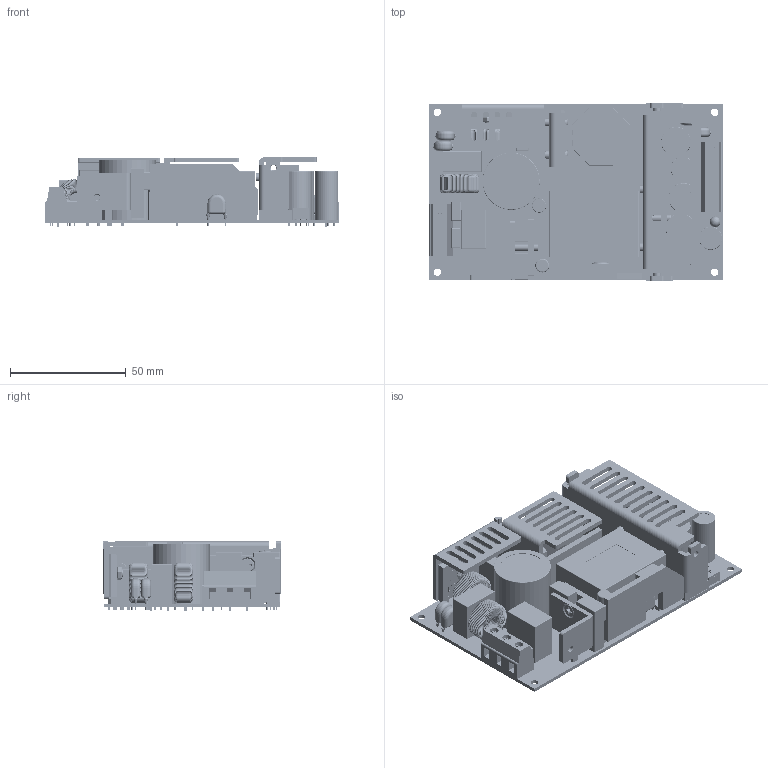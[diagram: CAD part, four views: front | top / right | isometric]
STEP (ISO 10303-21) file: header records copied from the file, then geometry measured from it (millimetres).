
FILE_DESCRIPTION(/* description */ (''),/* implementation_level */ '2;1');
FILE_NAME(/* name */ 'D:\Inventor\3D Files\200508\AQF120O B TYPE.stp',/* time_stamp */ '2020-04-23T16:15:37+08:00',/* author */ ('peter'),/* organization */ (''),/* preprocessor_version */ 'ST-DEVELOPER v15.2',/* originating_system */ 'Autodesk Inventor 2014',/* authorisation */ '');
FILE_SCHEMA (('AUTOMOTIVE_DESIGN { 1 0 10303 214 3 1 1 }'));
Products named in the file (31): PCB; X3 HEATSINK; INSULATOR TO-220; I HEATSINK; SCREW PH M3_12 mm; X2 HEATSINK; SCREW PH M3_10 mm; X1 HEATSINK; TO-220FP; TO-220FP_1; SCREW CH_W  M3_8mm; BD1; SCREW PH M3_8mm; M3; VR; LED; L1; L1_1; Y -- C; Y -- C_1; Y -- C_2; Y -- C_3; Y -- C_4; LABEL - 12S; DT-128-01; INLET 3P; INLET 4P; PCB - B TYPE
Bounding box: 127 x 77 x 30 mm (x, y, z)
Volume: 117670.1 mm3; surface area: 79556.5 mm2
Topology: 44 solids, 218 shells, 7369 faces, 14343 edges, 7226 vertices
Faces by surface type: torus 2839, cylinder 2807, plane 1399, bspline 256, cone 51, sphere 17
Full cylindrical faces by diameter (mm): 0.45 x3, 0.5 x1, 0.6 x16, 1.85 x2, 2.459 x11, 3 x5, 3.1 x2, 3.2 x9, 3.5 x7, 3.8 x7, 4.219 x1, 4.7 x1, 5.8 x5, 6 x1, 6.129 x1, 6.353 x1, 8.825 x1, 8.853 x1, 9.476 x1, 10.037 x1, 10.297 x1, 12.809 x2, 12.995 x1, 19.003 x1, 24.791 x1
Entity records: 193057 total; most frequent: CARTESIAN_POINT 49703, DIRECTION 32756, ORIENTED_EDGE 29304, AXIS2_PLACEMENT_3D 14563, EDGE_CURVE 13255, EDGE_LOOP 7323, ADVANCED_FACE 7018, CIRCLE 6968
